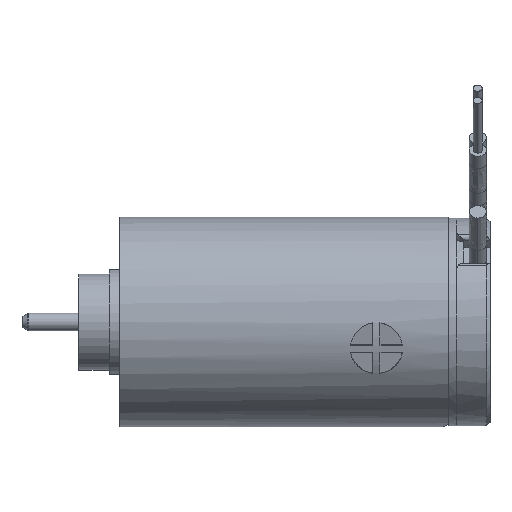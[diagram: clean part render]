
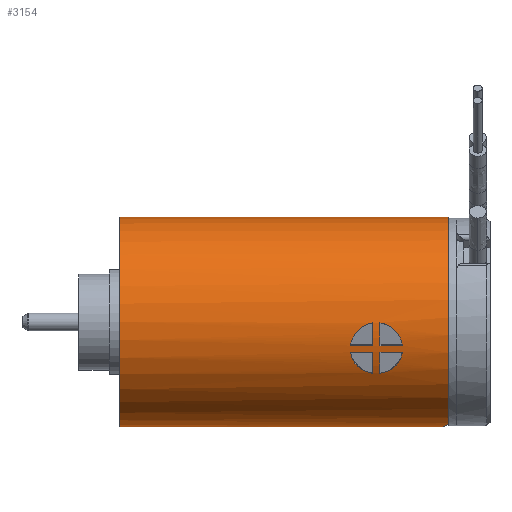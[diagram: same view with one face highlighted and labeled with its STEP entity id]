
A CAD part, top view. The second image highlights one B-rep face of the part: STEP entity #3154.
In plain terms, the highlighted cylindrical face has radius 6 mm (diameter 12 mm), a partial arc.
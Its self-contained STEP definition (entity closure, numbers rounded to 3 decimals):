
#976=CARTESIAN_POINT('',(18.4,-6.,0.));
#1092=CARTESIAN_POINT('',(18.4,-6.,0.));
#1093=CARTESIAN_POINT('',(18.535,-6.,0.508));
#1094=CARTESIAN_POINT('',(18.669,-5.937,1.008));
#1095=CARTESIAN_POINT('',(18.8,-5.809,1.5));
#1100=DIRECTION('',(-1.,0.,0.));
#1101=VECTOR('',#1100,18.4);
#1102=CARTESIAN_POINT('',(18.4,-6.,0.));
#1103=LINE('',#1102,#1101);
#1107=DIRECTION('',(-1.,0.,0.));
#1108=VECTOR('',#1107,18.8);
#1109=CARTESIAN_POINT('',(18.8,6.,0.));
#1110=LINE('',#1109,#1108);
#1114=CARTESIAN_POINT('',(18.8,0.,0.));
#1115=DIRECTION('',(1.,0.,0.));
#1116=DIRECTION('',(0.,1.,0.));
#1117=AXIS2_PLACEMENT_3D('',#1114,#1115,#1116);
#1122=CARTESIAN_POINT('',(14.9,0.,0.));
#1123=DIRECTION('',(-1.,0.,0.));
#1124=DIRECTION('',(0.,-0.226,0.974));
#1125=AXIS2_PLACEMENT_3D('',#1122,#1123,#1124);
#1130=DIRECTION('',(-1.,0.,0.));
#1131=VECTOR('',#1130,1.287);
#1132=CARTESIAN_POINT('',(16.187,-1.359,5.844));
#1133=LINE('',#1132,#1131);
#1137=CARTESIAN_POINT('',(16.187,-1.359,5.844));
#1138=CARTESIAN_POINT('',(16.178,-1.296,5.859));
#1139=CARTESIAN_POINT('',(16.153,-1.173,5.885));
#1140=CARTESIAN_POINT('',(16.09,-0.991,
5.919));
#1141=CARTESIAN_POINT('',(16.004,-0.816,
5.945));
#1142=CARTESIAN_POINT('',(15.894,-0.651,
5.965));
#1143=CARTESIAN_POINT('',(15.764,-0.501,
5.98));
#1144=CARTESIAN_POINT('',(15.615,-0.368,
5.989));
#1145=CARTESIAN_POINT('',(15.451,-0.257,
5.995));
#1146=CARTESIAN_POINT('',(15.275,-0.168,
5.998));
#1147=CARTESIAN_POINT('',(15.09,-0.104,
5.999));
#1148=CARTESIAN_POINT('',(14.964,-0.077,
6.));
#1149=CARTESIAN_POINT('',(14.9,-0.069,6.));
#1154=CARTESIAN_POINT('',(14.9,0.,0.));
#1155=DIRECTION('',(-1.,0.,0.));
#1156=DIRECTION('',(0.,-0.49,0.872));
#1157=AXIS2_PLACEMENT_3D('',#1154,#1155,#1156);
#1162=CARTESIAN_POINT('',(14.9,-2.94,5.23));
#1163=CARTESIAN_POINT('',(14.964,-2.933,5.234));
#1164=CARTESIAN_POINT('',(15.09,-2.91,5.247));
#1165=CARTESIAN_POINT('',(15.275,-2.854,5.278));
#1166=CARTESIAN_POINT('',(15.45,-2.775,5.32));
#1167=CARTESIAN_POINT('',(15.615,-2.676,5.371));
#1168=CARTESIAN_POINT('',(15.764,-2.556,5.429));
#1169=CARTESIAN_POINT('',(15.894,-2.419,5.492));
#1170=CARTESIAN_POINT('',(16.004,-2.266,5.557));
#1171=CARTESIAN_POINT('',(16.09,-2.101,5.621));
#1172=CARTESIAN_POINT('',(16.153,-1.927,5.683));
#1173=CARTESIAN_POINT('',(16.178,-1.807,5.722));
#1174=CARTESIAN_POINT('',(16.187,-1.745,5.741));
#1179=DIRECTION('',(-1.,0.,0.));
#1180=VECTOR('',#1179,1.287);
#1181=CARTESIAN_POINT('',(16.187,-1.745,5.741));
#1182=LINE('',#1181,#1180);
#1186=CARTESIAN_POINT('',(14.5,0.,0.));
#1187=DIRECTION('',(-1.,0.,0.));
#1188=DIRECTION('',(0.,-0.49,0.872));
#1189=AXIS2_PLACEMENT_3D('',#1186,#1187,#1188);
#1194=DIRECTION('',(-1.,0.,0.));
#1195=VECTOR('',#1194,1.287);
#1196=CARTESIAN_POINT('',(14.5,-1.745,5.741));
#1197=LINE('',#1196,#1195);
#1201=CARTESIAN_POINT('',(13.213,-1.745,5.741));
#1202=CARTESIAN_POINT('',(13.222,-1.807,5.722));
#1203=CARTESIAN_POINT('',(13.247,-1.927,5.683));
#1204=CARTESIAN_POINT('',(13.31,-2.101,5.621));
#1205=CARTESIAN_POINT('',(13.396,-2.266,5.557));
#1206=CARTESIAN_POINT('',(13.506,-2.419,5.492));
#1207=CARTESIAN_POINT('',(13.636,-2.556,5.429));
#1208=CARTESIAN_POINT('',(13.785,-2.676,5.371));
#1209=CARTESIAN_POINT('',(13.95,-2.775,5.32));
#1210=CARTESIAN_POINT('',(14.125,-2.854,5.278));
#1211=CARTESIAN_POINT('',(14.31,-2.91,5.247));
#1212=CARTESIAN_POINT('',(14.436,-2.933,5.234));
#1213=CARTESIAN_POINT('',(14.5,-2.94,5.23));
#1218=CARTESIAN_POINT('',(14.5,0.,0.));
#1219=DIRECTION('',(-1.,0.,0.));
#1220=DIRECTION('',(0.,-0.226,0.974));
#1221=AXIS2_PLACEMENT_3D('',#1218,#1219,#1220);
#1226=CARTESIAN_POINT('',(14.5,-0.069,6.));
#1227=CARTESIAN_POINT('',(14.436,-0.077,
6.));
#1228=CARTESIAN_POINT('',(14.31,-0.104,
5.999));
#1229=CARTESIAN_POINT('',(14.125,-0.168,
5.998));
#1230=CARTESIAN_POINT('',(13.949,-0.257,
5.995));
#1231=CARTESIAN_POINT('',(13.785,-0.368,
5.989));
#1232=CARTESIAN_POINT('',(13.636,-0.501,
5.98));
#1233=CARTESIAN_POINT('',(13.506,-0.651,
5.965));
#1234=CARTESIAN_POINT('',(13.396,-0.816,
5.945));
#1235=CARTESIAN_POINT('',(13.31,-0.991,
5.919));
#1236=CARTESIAN_POINT('',(13.247,-1.173,5.885));
#1237=CARTESIAN_POINT('',(13.222,-1.296,5.859));
#1238=CARTESIAN_POINT('',(13.213,-1.359,5.844));
#1243=DIRECTION('',(-1.,0.,0.));
#1244=VECTOR('',#1243,1.287);
#1245=CARTESIAN_POINT('',(14.5,-1.359,5.844));
#1246=LINE('',#1245,#1244);
#1250=CARTESIAN_POINT('',(0.,0.,0.));
#1251=DIRECTION('',(1.,0.,0.));
#1252=DIRECTION('',(0.,1.,0.));
#1253=AXIS2_PLACEMENT_3D('',#1250,#1251,#1252);
#1897=CARTESIAN_POINT('',(0.,6.,0.));
#1898=CARTESIAN_POINT('',(0.,-6.,0.));
#1899=VERTEX_POINT('',#1897);
#1900=VERTEX_POINT('',#1898);
#1937=CARTESIAN_POINT('',(14.9,-1.359,5.844));
#1938=CARTESIAN_POINT('',(14.9,-0.069,6.));
#1939=VERTEX_POINT('',#1937);
#1940=VERTEX_POINT('',#1938);
#1941=VERTEX_POINT('',#1137);
#1942=CARTESIAN_POINT('',(14.9,-2.94,5.23));
#1943=CARTESIAN_POINT('',(14.9,-1.745,5.741));
#1944=VERTEX_POINT('',#1942);
#1945=VERTEX_POINT('',#1943);
#1946=VERTEX_POINT('',#1174);
#1947=CARTESIAN_POINT('',(14.5,-2.94,5.23));
#1948=CARTESIAN_POINT('',(14.5,-1.745,5.741));
#1949=VERTEX_POINT('',#1947);
#1950=VERTEX_POINT('',#1948);
#1951=VERTEX_POINT('',#1201);
#1952=CARTESIAN_POINT('',(14.5,-1.359,5.844));
#1953=CARTESIAN_POINT('',(14.5,-0.069,6.));
#1954=VERTEX_POINT('',#1952);
#1955=VERTEX_POINT('',#1953);
#1956=VERTEX_POINT('',#1238);
#1965=CARTESIAN_POINT('',(18.8,6.,0.));
#1966=VERTEX_POINT('',#1965);
#1968=VERTEX_POINT('',#976);
#1969=VERTEX_POINT('',#1095);
#3109=CARTESIAN_POINT('',(20.698,0.,0.));
#3110=DIRECTION('',(-1.,0.,0.));
#3111=DIRECTION('',(0.,1.,0.));
#3112=AXIS2_PLACEMENT_3D('',#3109,#3110,#3111);
#3113=CYLINDRICAL_SURFACE('',#3112,6.);
#3114=ORIENTED_EDGE('',*,*,#3092,.F.);
#3115=ORIENTED_EDGE('',*,*,#2991,.T.);
#3117=ORIENTED_EDGE('',*,*,#3116,.F.);
#3118=ORIENTED_EDGE('',*,*,#2987,.F.);
#3119=ORIENTED_EDGE('',*,*,#2954,.T.);
#3120=EDGE_LOOP('',(#3114,#3115,#3117,#3118,#3119));
#3121=FACE_OUTER_BOUND('',#3120,.F.);
#3123=ORIENTED_EDGE('',*,*,#3122,.F.);
#3125=ORIENTED_EDGE('',*,*,#3124,.F.);
#3127=ORIENTED_EDGE('',*,*,#3126,.T.);
#3128=EDGE_LOOP('',(#3123,#3125,#3127));
#3129=FACE_BOUND('',#3128,.F.);
#3131=ORIENTED_EDGE('',*,*,#3130,.F.);
#3133=ORIENTED_EDGE('',*,*,#3132,.T.);
#3135=ORIENTED_EDGE('',*,*,#3134,.T.);
#3136=EDGE_LOOP('',(#3131,#3133,#3135));
#3137=FACE_BOUND('',#3136,.F.);
#3139=ORIENTED_EDGE('',*,*,#3138,.T.);
#3141=ORIENTED_EDGE('',*,*,#3140,.T.);
#3143=ORIENTED_EDGE('',*,*,#3142,.T.);
#3144=EDGE_LOOP('',(#3139,#3141,#3143));
#3145=FACE_BOUND('',#3144,.F.);
#3147=ORIENTED_EDGE('',*,*,#3146,.T.);
#3149=ORIENTED_EDGE('',*,*,#3148,.T.);
#3151=ORIENTED_EDGE('',*,*,#3150,.F.);
#3152=EDGE_LOOP('',(#3147,#3149,#3151));
#3153=FACE_BOUND('',#3152,.F.);
#3154=ADVANCED_FACE('',(#3121,#3129,#3137,#3145,#3153),#3113,.T.);
#1096=B_SPLINE_CURVE_WITH_KNOTS('',3,(#1092,#1093,#1094,#1095),.UNSPECIFIED.,
.F.,.F.,(4,4),(0.,1.),.UNSPECIFIED.);
#1118=CIRCLE('',#1117,6.);
#1126=CIRCLE('',#1125,6.);
#1150=B_SPLINE_CURVE_WITH_KNOTS('',3,(#1137,#1138,#1139,#1140,#1141,#1142,#1143,
#1144,#1145,#1146,#1147,#1148,#1149),.UNSPECIFIED.,.F.,.F.,(4,1,1,1,1,1,1,1,1,1,
4),(0.,0.1,0.2,0.3,0.4,0.5,0.6,0.7,0.8,0.9,1.),
.UNSPECIFIED.);
#1158=CIRCLE('',#1157,6.);
#1175=B_SPLINE_CURVE_WITH_KNOTS('',3,(#1162,#1163,#1164,#1165,#1166,#1167,#1168,
#1169,#1170,#1171,#1172,#1173,#1174),.UNSPECIFIED.,.F.,.F.,(4,1,1,1,1,1,1,1,1,1,
4),(0.,0.1,0.2,0.3,0.4,0.5,0.6,0.7,0.8,0.9,1.),
.UNSPECIFIED.);
#1190=CIRCLE('',#1189,6.);
#1214=B_SPLINE_CURVE_WITH_KNOTS('',3,(#1201,#1202,#1203,#1204,#1205,#1206,#1207,
#1208,#1209,#1210,#1211,#1212,#1213),.UNSPECIFIED.,.F.,.F.,(4,1,1,1,1,1,1,1,1,1,
4),(0.,0.1,0.2,0.3,0.4,0.5,0.6,0.7,0.8,0.9,1.),
.UNSPECIFIED.);
#1222=CIRCLE('',#1221,6.);
#1239=B_SPLINE_CURVE_WITH_KNOTS('',3,(#1226,#1227,#1228,#1229,#1230,#1231,#1232,
#1233,#1234,#1235,#1236,#1237,#1238),.UNSPECIFIED.,.F.,.F.,(4,1,1,1,1,1,1,1,1,1,
4),(0.,0.1,0.2,0.3,0.4,0.5,0.6,0.7,0.8,0.9,1.),
.UNSPECIFIED.);
#1254=CIRCLE('',#1253,6.);
#2954=EDGE_CURVE('',#1966,#1969,#1118,.T.);
#2987=EDGE_CURVE('',#1966,#1899,#1110,.T.);
#2991=EDGE_CURVE('',#1968,#1900,#1103,.T.);
#3092=EDGE_CURVE('',#1968,#1969,#1096,.T.);
#3116=EDGE_CURVE('',#1899,#1900,#1254,.T.);
#3122=EDGE_CURVE('',#1939,#1940,#1126,.T.);
#3124=EDGE_CURVE('',#1941,#1939,#1133,.T.);
#3126=EDGE_CURVE('',#1941,#1940,#1150,.T.);
#3130=EDGE_CURVE('',#1944,#1945,#1158,.T.);
#3132=EDGE_CURVE('',#1944,#1946,#1175,.T.);
#3134=EDGE_CURVE('',#1946,#1945,#1182,.T.);
#3138=EDGE_CURVE('',#1949,#1950,#1190,.T.);
#3140=EDGE_CURVE('',#1950,#1951,#1197,.T.);
#3142=EDGE_CURVE('',#1951,#1949,#1214,.T.);
#3146=EDGE_CURVE('',#1954,#1955,#1222,.T.);
#3148=EDGE_CURVE('',#1955,#1956,#1239,.T.);
#3150=EDGE_CURVE('',#1954,#1956,#1246,.T.);
